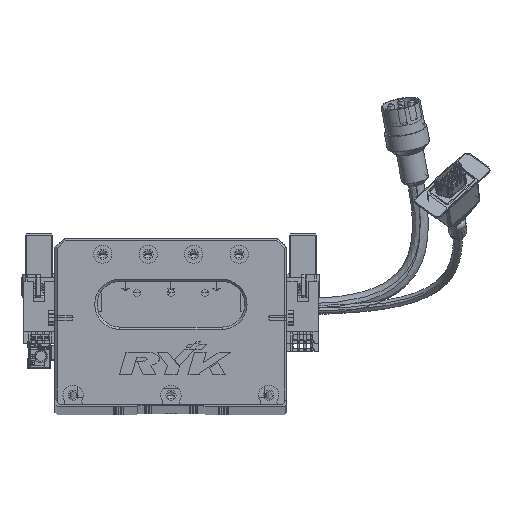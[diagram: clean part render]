
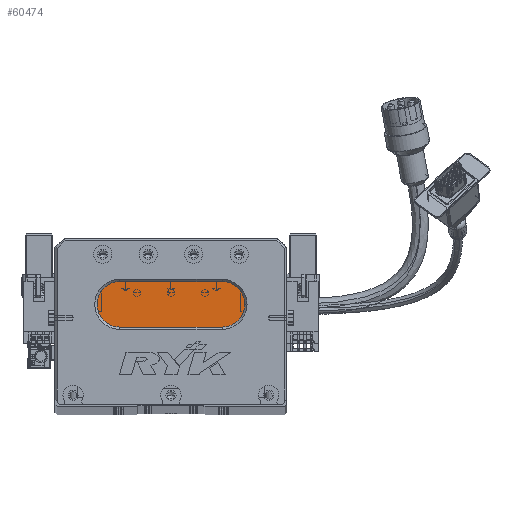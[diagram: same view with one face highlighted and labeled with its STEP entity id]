
A CAD part, top view. The second image highlights one B-rep face of the part: STEP entity #60474.
In plain terms, the highlighted planar face has unit normal (0, 0, 1) as drawn and (0, 0, -1) by its records, which use the part's own axes.
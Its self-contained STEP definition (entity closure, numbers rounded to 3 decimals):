
#2018 = LINE ( 'NONE', #2677, #64912 ) ;
#2677 = CARTESIAN_POINT ( 'NONE',  ( 73.5, 34., 13. ) ) ;
#4590 = CARTESIAN_POINT ( 'NONE',  ( 28.5, 54., 13. ) ) ;
#5281 = ORIENTED_EDGE ( 'NONE', *, *, #20953, .T. ) ;
#11783 = AXIS2_PLACEMENT_3D ( 'NONE', #35680, #42544, #17532 ) ;
#13010 = VERTEX_POINT ( 'NONE', #4590 ) ;
#13039 = DIRECTION ( 'NONE',  ( -1., 0., 0. ) ) ;
#15017 = DIRECTION ( 'NONE',  ( 1., 0., 0. ) ) ;
#16671 = CARTESIAN_POINT ( 'NONE',  ( 28.5, 44., 13. ) ) ;
#17532 = DIRECTION ( 'NONE',  ( -1., 0., 0. ) ) ;
#19663 = CIRCLE ( 'NONE', #11783, 10. ) ;
#19911 = CIRCLE ( 'NONE', #55690, 10. ) ;
#20854 = VERTEX_POINT ( 'NONE', #27430 ) ;
#20953 = EDGE_CURVE ( 'NONE', #59908, #13010, #27921, .T. ) ;
#26889 = CARTESIAN_POINT ( 'NONE',  ( 18.5, 44., 13. ) ) ;
#27430 = CARTESIAN_POINT ( 'NONE',  ( 73.5, 54., 13. ) ) ;
#27921 = CIRCLE ( 'NONE', #58613, 10. ) ;
#28274 = CARTESIAN_POINT ( 'NONE',  ( 73.5, 44., 13. ) ) ;
#29071 = DIRECTION ( 'NONE',  ( 0., 0., -1. ) ) ;
#29103 = DIRECTION ( 'NONE',  ( -1., 0., 0. ) ) ;
#32085 = ORIENTED_EDGE ( 'NONE', *, *, #52827, .T. ) ;
#33218 = VERTEX_POINT ( 'NONE', #74797 ) ;
#34921 = ORIENTED_EDGE ( 'NONE', *, *, #48516, .T. ) ;
#35207 = CARTESIAN_POINT ( 'NONE',  ( 73.5, 34., 13. ) ) ;
#35220 = ORIENTED_EDGE ( 'NONE', *, *, #71721, .T. ) ;
#35680 = CARTESIAN_POINT ( 'NONE',  ( 28.5, 44., 13. ) ) ;
#42393 = VECTOR ( 'NONE', #15017, 1000. ) ;
#42544 = DIRECTION ( 'NONE',  ( 0., 0., -1. ) ) ;
#44106 = ORIENTED_EDGE ( 'NONE', *, *, #69540, .T. ) ;
#46705 = AXIS2_PLACEMENT_3D ( 'NONE', #75939, #70148, #13039 ) ;
#48516 = EDGE_CURVE ( 'NONE', #33218, #59908, #19663, .T. ) ;
#49198 = LINE ( 'NONE', #77377, #42393 ) ;
#51213 = PLANE ( 'NONE',  #46705 ) ;
#52827 = EDGE_CURVE ( 'NONE', #20854, #61158, #19911, .T. ) ;
#55690 = AXIS2_PLACEMENT_3D ( 'NONE', #28274, #72202, #60118 ) ;
#57676 = EDGE_LOOP ( 'NONE', ( #32085, #35220, #34921, #5281, #44106 ) ) ;
#58613 = AXIS2_PLACEMENT_3D ( 'NONE', #16671, #29071, #72989 ) ;
#59908 = VERTEX_POINT ( 'NONE', #26889 ) ;
#60118 = DIRECTION ( 'NONE',  ( -1., 0., 0. ) ) ;
#60474 = ADVANCED_FACE ( 'NONE', ( #70838 ), #51213, .T. ) ;
#61158 = VERTEX_POINT ( 'NONE', #35207 ) ;
#64912 = VECTOR ( 'NONE', #29103, 1000. ) ;
#69540 = EDGE_CURVE ( 'NONE', #13010, #20854, #49198, .T. ) ;
#70148 = DIRECTION ( 'NONE',  ( 0., 0., -1. ) ) ;
#70838 = FACE_OUTER_BOUND ( 'NONE', #57676, .T. ) ;
#71721 = EDGE_CURVE ( 'NONE', #61158, #33218, #2018, .T. ) ;
#72202 = DIRECTION ( 'NONE',  ( 0., 0., -1. ) ) ;
#72989 = DIRECTION ( 'NONE',  ( -1., 0., 0. ) ) ;
#74797 = CARTESIAN_POINT ( 'NONE',  ( 28.5, 34., 13. ) ) ;
#75939 = CARTESIAN_POINT ( 'NONE',  ( 73.5, 44., 13. ) ) ;
#77377 = CARTESIAN_POINT ( 'NONE',  ( 73.5, 54., 13. ) ) ;
